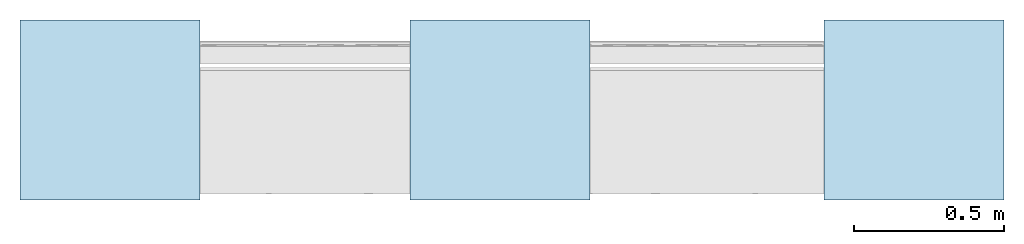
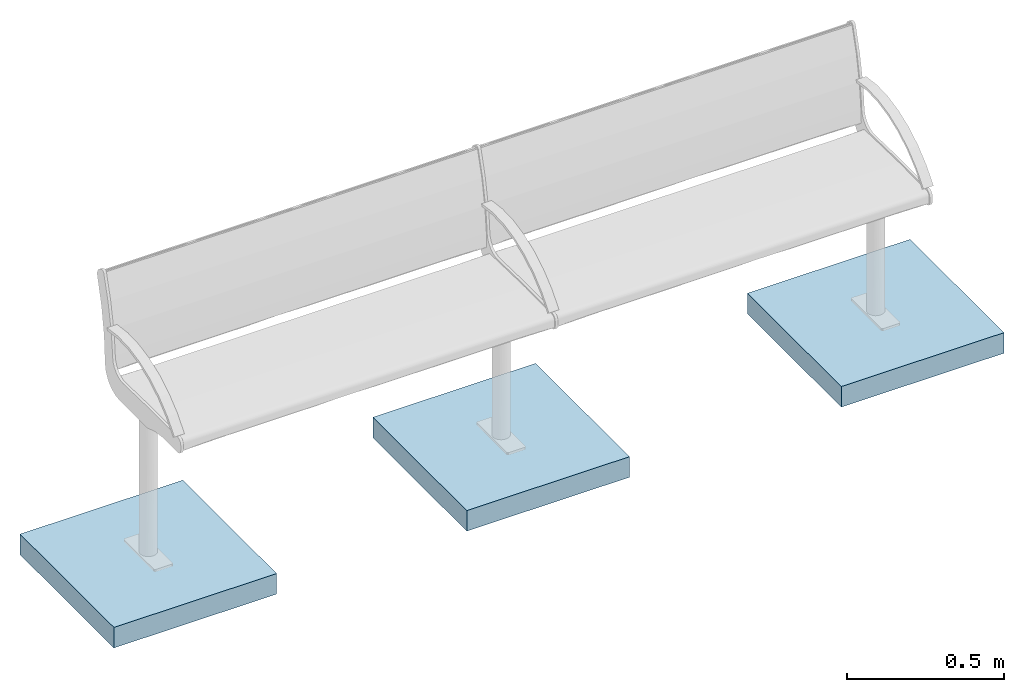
# One storey, incomplete: 3 slabs.
"""IFC4 building model written with IfcOpenShell, lengths in metres."""

from ifc_helpers import new_model, entity, si_unit, converted_unit, direction, frame, frame_2d, origin, origin_2d_with_axis, place, context, subcontext, project, spatial, rectangle, extrude, material, type_object, element, save


model = new_model("IFC4")

# Units and contexts
model_context = context("Model", 3, precision=1e-05, world=origin(), true_north=direction((6.123031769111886e-17, 1.0)))
body_context = subcontext(model_context, "Body", "Model", "MODEL_VIEW")
ifc_project = project(units=[si_unit("LENGTHUNIT", "METRE"), converted_unit("PLANEANGLEUNIT", "DEGREE", entity("IfcPlaneAngleMeasure", 0.017453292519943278), si_unit("PLANEANGLEUNIT", "RADIAN"), dimensions=[0, 0, 0, 0, 0, 0, 0]), si_unit("AREAUNIT", "SQUARE_METRE")], contexts=[model_context])

# Site, building, storey
site_placement = place(None, origin())
site = spatial("IfcSite", under=ifc_project, at=site_placement, Name="Default", CompositionType="ELEMENT")
building_placement = place(site_placement, origin())
building = spatial("IfcBuilding", under=site, at=building_placement, CompositionType="ELEMENT")
storey_placement = place(building_placement, origin())
storey = spatial("IfcBuildingStorey", under=building, at=storey_placement, Name="DB_Bezugshoehe_max_Bahnsteigkante", CompositionType="ELEMENT", Elevation=0.0)

# Slabs
ifc_material = material(Name="DB_Fertigbeton", Category="DB_Beton")
slab_type = type_object("IfcSlabType", Name="DB_Sitzbank_Fundament:DB_Sitzbank_Fundament", PredefinedType="BASESLAB", material=ifc_material)
slab_1_placement = place(storey_placement, origin())
element("IfcSlab", 1, at=slab_1_placement, inside=storey, type_object=slab_type, Name="DB_Sitzbank_Fundament:DB_Sitzbank_Fundament", ObjectType="DB_Sitzbank_Fundament:DB_Sitzbank_Fundament", PredefinedType="BASESLAB", context=body_context, shape_type="SweptSolid", body=[
    extrude(rectangle(XDim=0.5999999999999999, YDim=0.6000000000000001, at=origin_2d_with_axis()), frame((-1.3410000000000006, 0.0, -0.25), z_axis=(0.0, 0.0, 1.0), x_axis=(0.0, 1.0, 0.0)), (0.0, 0.0, 1.0), 0.08000000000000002),
])
slab_2_placement = place(storey_placement, origin())
element("IfcSlab", 2, at=slab_2_placement, inside=storey, type_object=slab_type, Name="DB_Sitzbank_Fundament:DB_Sitzbank_Fundament", ObjectType="DB_Sitzbank_Fundament:DB_Sitzbank_Fundament", PredefinedType="BASESLAB", context=body_context, shape_type="SweptSolid", body=[
    extrude(rectangle(XDim=0.5999999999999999, YDim=0.5999999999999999, at=frame_2d((0.0, -2.7755575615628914e-17), x_axis=(1.0, 0.0))), frame((-0.03999999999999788, 0.0, -0.25), z_axis=(0.0, 0.0, 1.0), x_axis=(0.0, 1.0, 0.0)), (0.0, 0.0, 1.0), 0.08000000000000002),
])
slab_3_placement = place(storey_placement, origin())
element("IfcSlab", 3, at=slab_3_placement, inside=storey, type_object=slab_type, Name="DB_Sitzbank_Fundament:DB_Sitzbank_Fundament", ObjectType="DB_Sitzbank_Fundament:DB_Sitzbank_Fundament", PredefinedType="BASESLAB", context=body_context, shape_type="SweptSolid", body=[
    extrude(rectangle(XDim=0.5999999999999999, YDim=0.5999999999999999, at=frame_2d((0.0, -8.326672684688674e-17), x_axis=(1.0, 0.0))), frame((1.3410000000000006, 0.0, -0.24999999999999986), z_axis=(0.0, 0.0, 1.0), x_axis=(0.0, 1.0, 0.0)), (0.0, 0.0, 1.0), 0.08000000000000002),
])

save(model, "model.ifc")
